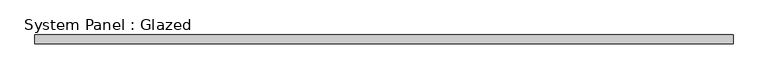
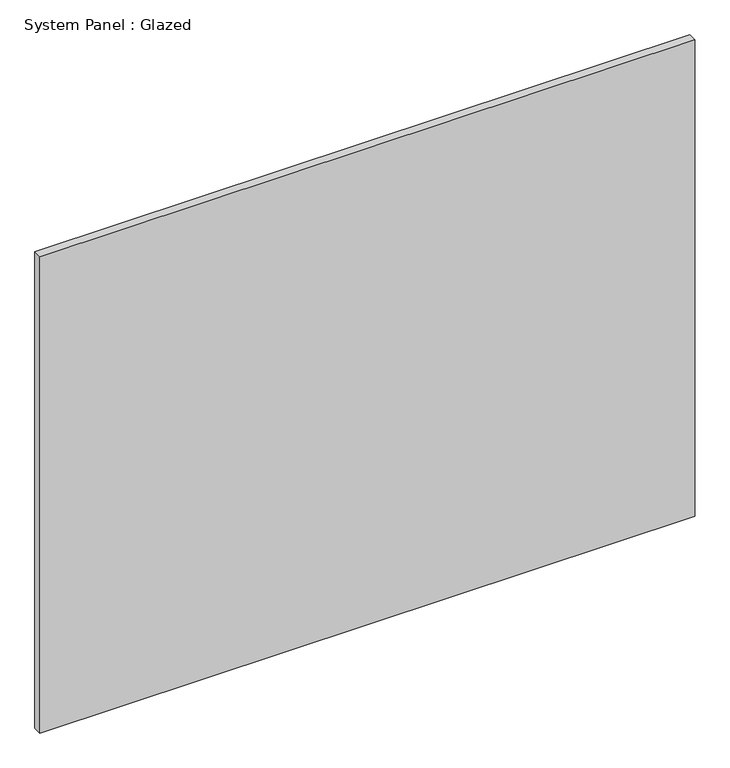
"""IFC4 building model written with IfcOpenShell, lengths in millimetres: plate geometry, System Panel : Glazed."""

from ifc_helpers import new_model, si_unit, origin, origin_with_axes, place, context, project, spatial, polyline, outline, extrude, source, transform, mapped, element, save


def system_panel_glazed_81988b3c(model_context):
    return source(origin(), model_context, "Body", "SweptSolid", [
        extrude(outline(polyline([(990.6, 19.05), (-990.6, 19.05), (-990.6, 44.45), (990.6, 44.45), (990.6, 19.05)])), origin_with_axes(), (0.0, 0.0, 1.0), 1524.0),
    ])


if __name__ == "__main__":
    model = new_model("IFC4")
    model_context = context("Model", 3, world=origin())
    ifc_project = project(units=[si_unit("LENGTHUNIT", "METRE", prefix="MILLI")], contexts=[model_context])
    site = spatial("IfcSite", under=ifc_project)
    building = spatial("IfcBuilding", under=site)
    placement = place(None, origin())
    system_panel_glazed_shape = system_panel_glazed_81988b3c(model_context)
    element("IfcPlate", 1, ObjectType="System Panel : Glazed", at=placement, inside=building, context=model_context, shape_type="MappedRepresentation", body=[
        mapped(system_panel_glazed_shape, transform((0.0, 0.0, 0.0), x_axis=(1.0, 0.0, 0.0), y_axis=(0.0, 1.0, 0.0), z_axis=(0.0, 0.0, 1.0))),
    ])
    save(model, "model.ifc")
